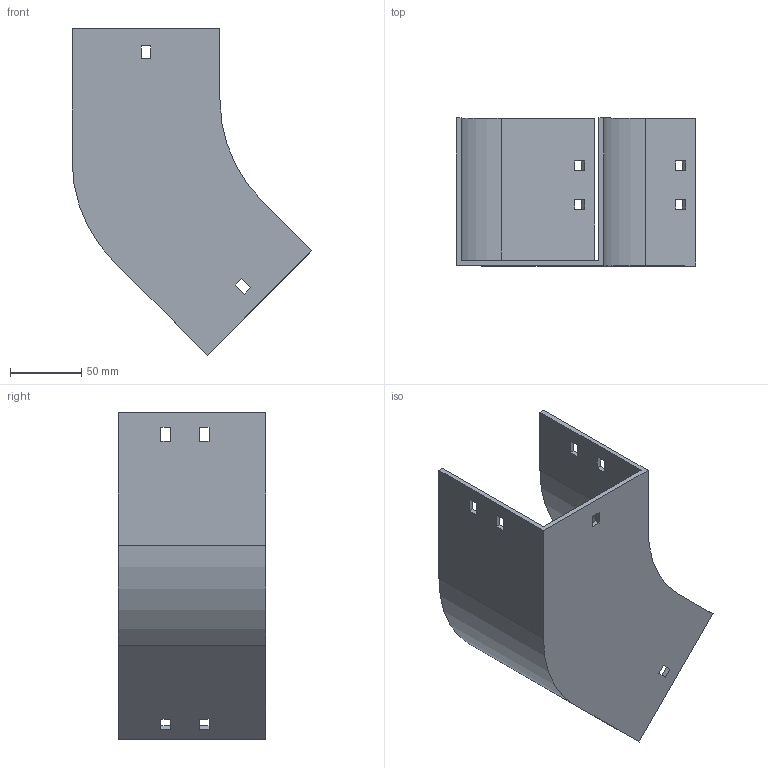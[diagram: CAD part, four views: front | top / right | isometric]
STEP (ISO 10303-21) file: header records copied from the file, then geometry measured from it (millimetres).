
FILE_DESCRIPTION (( 'STEP AP214' ), '1' );
FILE_NAME ('11B1D100.step', '2025-02-21T09:36:32', ( '' ), ( '' ), 'SwSTEP 2.0', 'SolidWorks 2023', '' );
FILE_SCHEMA (( 'AUTOMOTIVE_DESIGN' ));
Length unit declared in the file: millimetre
Products named in the file (1): 11B1D100
Bounding box: 168.64 x 104 x 229.61 mm (x, y, z)
Volume: 235774 mm3; surface area: 139583.3 mm2
Topology: 1 solids, 1 shells, 58 faces, 168 edges, 112 vertices
Faces by surface type: plane 54, cylinder 4
Entity records: 1943 total; most frequent: CARTESIAN_POINT 339, ORIENTED_EDGE 336, DIRECTION 294, EDGE_CURVE 168, VECTOR 160, LINE 160, VERTEX_POINT 112, EDGE_LOOP 78
